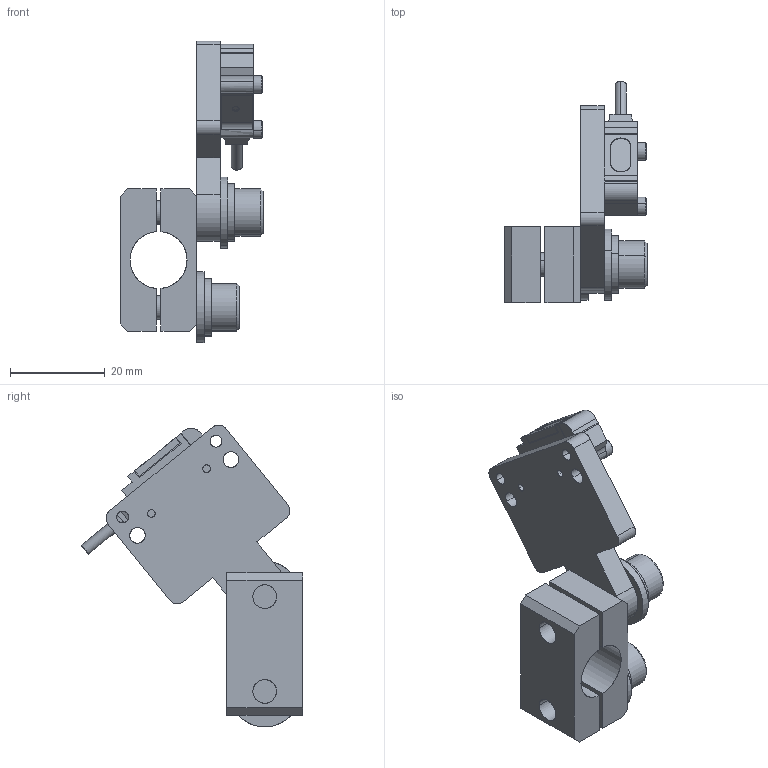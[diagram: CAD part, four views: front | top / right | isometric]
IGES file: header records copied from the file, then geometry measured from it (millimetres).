
Start section: SolidWorks IGES file using analytic representation for surfaces
Global section: file name: E:\EFCKishi\Šm”F\JLM\IGES\JLM-003.IGS; native system: SolidWorks 2006 by SolidWorks Corporation; preprocessor: SolidWorks 2006 by SolidWorks Corporation; author: CAD58; date: 080913.084621; units: millimetre
Bounding box: 30.1 x 46.69 x 63.71 mm (x, y, z)
Surface area: 9566.3 mm2 (no closed solid volume)
Topology: 0 solids, 0 shells, 234 faces, 2908 edges, 2884 vertices
Faces by surface type: bspline 157, revolution 77
